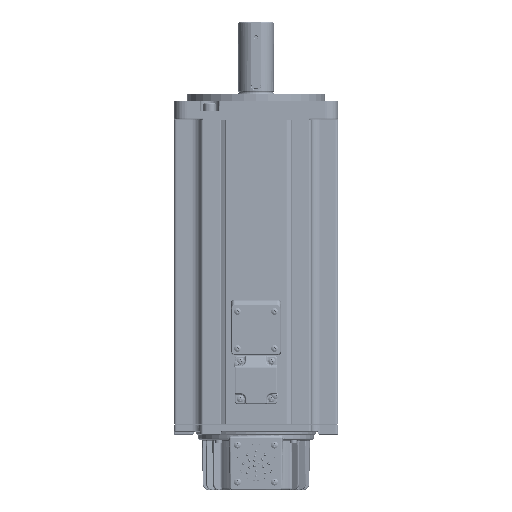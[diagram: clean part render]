
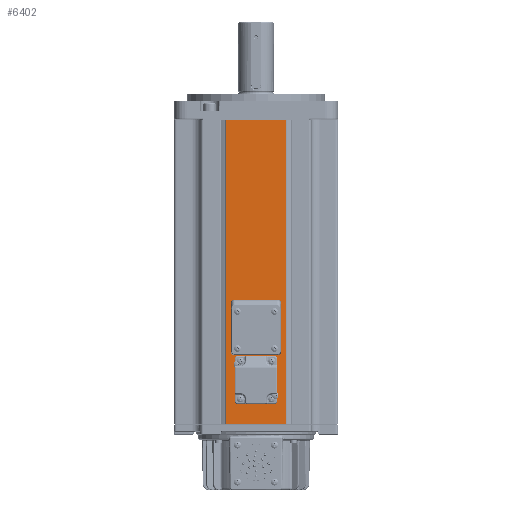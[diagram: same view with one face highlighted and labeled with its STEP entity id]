
A CAD part, front view. The second image highlights one B-rep face of the part: STEP entity #6402.
In plain terms, the highlighted planar face has unit normal (0, -1, 0).
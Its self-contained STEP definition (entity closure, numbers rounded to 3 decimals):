
#1527=CARTESIAN_POINT('',(-14.672,-65.,-31.078));
#1528=DIRECTION('',(0.,1.,0.));
#1529=DIRECTION('',(0.,0.,-1.));
#1530=AXIS2_PLACEMENT_3D('',#1527,#1528,#1529);
#1532=CARTESIAN_POINT('',(-14.672,-65.,-31.078));
#1533=DIRECTION('',(0.,1.,0.));
#1534=DIRECTION('',(0.,0.,1.));
#1535=AXIS2_PLACEMENT_3D('',#1532,#1533,#1534);
#1537=CARTESIAN_POINT('',(14.672,-65.,-31.078));
#1538=DIRECTION('',(0.,1.,0.));
#1539=DIRECTION('',(0.,0.,-1.));
#1540=AXIS2_PLACEMENT_3D('',#1537,#1538,#1539);
#1542=CARTESIAN_POINT('',(14.672,-65.,-31.078));
#1543=DIRECTION('',(0.,1.,0.));
#1544=DIRECTION('',(0.,0.,1.));
#1545=AXIS2_PLACEMENT_3D('',#1542,#1543,#1544);
#1547=CARTESIAN_POINT('',(0.,-65.,-29.75));
#1548=DIRECTION('',(0.,1.,0.));
#1549=DIRECTION('',(0.,0.,-1.));
#1550=AXIS2_PLACEMENT_3D('',#1547,#1548,#1549);
#1552=CARTESIAN_POINT('',(0.,-65.,-29.75));
#1553=DIRECTION('',(0.,1.,0.));
#1554=DIRECTION('',(0.,0.,1.));
#1555=AXIS2_PLACEMENT_3D('',#1552,#1553,#1554);
#1557=CARTESIAN_POINT('',(-14.672,-65.,-60.422));
#1558=DIRECTION('',(0.,1.,0.));
#1559=DIRECTION('',(0.,0.,-1.));
#1560=AXIS2_PLACEMENT_3D('',#1557,#1558,#1559);
#1562=CARTESIAN_POINT('',(-14.672,-65.,-60.422));
#1563=DIRECTION('',(0.,1.,0.));
#1564=DIRECTION('',(0.,0.,1.));
#1565=AXIS2_PLACEMENT_3D('',#1562,#1563,#1564);
#1567=CARTESIAN_POINT('',(14.672,-65.,-60.422));
#1568=DIRECTION('',(0.,1.,0.));
#1569=DIRECTION('',(0.,0.,-1.));
#1570=AXIS2_PLACEMENT_3D('',#1567,#1568,#1569);
#1572=CARTESIAN_POINT('',(14.672,-65.,-60.422));
#1573=DIRECTION('',(0.,1.,0.));
#1574=DIRECTION('',(0.,0.,1.));
#1575=AXIS2_PLACEMENT_3D('',#1572,#1573,#1574);
#1577=CARTESIAN_POINT('',(-12.5,-65.,-70.45));
#1578=DIRECTION('',(0.,1.,0.));
#1579=DIRECTION('',(0.,0.,-1.));
#1580=AXIS2_PLACEMENT_3D('',#1577,#1578,#1579);
#1582=CARTESIAN_POINT('',(-12.5,-65.,-70.45));
#1583=DIRECTION('',(0.,1.,0.));
#1584=DIRECTION('',(0.,0.,1.));
#1585=AXIS2_PLACEMENT_3D('',#1582,#1583,#1584);
#1587=CARTESIAN_POINT('',(12.5,-65.,-70.45));
#1588=DIRECTION('',(0.,1.,0.));
#1589=DIRECTION('',(0.,0.,-1.));
#1590=AXIS2_PLACEMENT_3D('',#1587,#1588,#1589);
#1592=CARTESIAN_POINT('',(12.5,-65.,-70.45));
#1593=DIRECTION('',(0.,1.,0.));
#1594=DIRECTION('',(0.,0.,1.));
#1595=AXIS2_PLACEMENT_3D('',#1592,#1593,#1594);
#1597=CARTESIAN_POINT('',(-12.5,-65.,-100.45));
#1598=DIRECTION('',(0.,1.,0.));
#1599=DIRECTION('',(0.,0.,-1.));
#1600=AXIS2_PLACEMENT_3D('',#1597,#1598,#1599);
#1602=CARTESIAN_POINT('',(-12.5,-65.,-100.45));
#1603=DIRECTION('',(0.,1.,0.));
#1604=DIRECTION('',(0.,0.,1.));
#1605=AXIS2_PLACEMENT_3D('',#1602,#1603,#1604);
#1607=CARTESIAN_POINT('',(12.5,-65.,-100.45));
#1608=DIRECTION('',(0.,1.,0.));
#1609=DIRECTION('',(0.,0.,-1.));
#1610=AXIS2_PLACEMENT_3D('',#1607,#1608,#1609);
#1612=CARTESIAN_POINT('',(12.5,-65.,-100.45));
#1613=DIRECTION('',(0.,1.,0.));
#1614=DIRECTION('',(0.,0.,1.));
#1615=AXIS2_PLACEMENT_3D('',#1612,#1613,#1614);
#1617=CARTESIAN_POINT('',(0.,-65.,-78.45));
#1618=DIRECTION('',(0.,1.,0.));
#1619=DIRECTION('',(1.,0.,0.));
#1620=AXIS2_PLACEMENT_3D('',#1617,#1618,#1619);
#1622=CARTESIAN_POINT('',(0.,-65.,-78.45));
#1623=DIRECTION('',(0.,1.,0.));
#1624=DIRECTION('',(-1.,0.,0.));
#1625=AXIS2_PLACEMENT_3D('',#1622,#1623,#1624);
#1627=CARTESIAN_POINT('',(0.,-65.,-45.75));
#1628=DIRECTION('',(0.,1.,0.));
#1629=DIRECTION('',(1.,0.,0.));
#1630=AXIS2_PLACEMENT_3D('',#1627,#1628,#1629);
#1632=CARTESIAN_POINT('',(0.,-65.,-45.75));
#1633=DIRECTION('',(0.,1.,0.));
#1634=DIRECTION('',(-1.,0.,0.));
#1635=AXIS2_PLACEMENT_3D('',#1632,#1633,#1634);
#1637=DIRECTION('',(1.,0.,0.));
#1638=VECTOR('',#1637,47.823);
#1639=CARTESIAN_POINT('',(-23.912,-65.,-120.75));
#1640=LINE('',#1639,#1638);
#1641=DIRECTION('',(0.,0.,-1.));
#1642=VECTOR('',#1641,241.5);
#1643=CARTESIAN_POINT('',(-23.912,-65.,120.75));
#1644=LINE('',#1643,#1642);
#1645=DIRECTION('',(-1.,0.,0.));
#1646=VECTOR('',#1645,47.823);
#1647=CARTESIAN_POINT('',(23.912,-65.,120.75));
#1648=LINE('',#1647,#1646);
#1649=DIRECTION('',(0.,0.,1.));
#1650=VECTOR('',#1649,241.5);
#1651=CARTESIAN_POINT('',(23.912,-65.,-120.75));
#1652=LINE('',#1651,#1650);
#4543=CARTESIAN_POINT('',(23.912,-65.,-120.75));
#4544=VERTEX_POINT('',#4543);
#4549=CARTESIAN_POINT('',(-23.912,-65.,-120.75));
#4550=VERTEX_POINT('',#4549);
#4923=CARTESIAN_POINT('',(23.912,-65.,120.75));
#4924=VERTEX_POINT('',#4923);
#4929=CARTESIAN_POINT('',(-23.912,-65.,120.75));
#4930=VERTEX_POINT('',#4929);
#5336=CARTESIAN_POINT('',(-7.,-65.,-78.45));
#5338=VERTEX_POINT('',#5336);
#5340=CARTESIAN_POINT('',(7.,-65.,-78.45));
#5342=VERTEX_POINT('',#5340);
#5344=CARTESIAN_POINT('',(-11.,-65.,-45.75));
#5346=VERTEX_POINT('',#5344);
#5347=CARTESIAN_POINT('',(11.,-65.,-45.75));
#5348=VERTEX_POINT('',#5347);
#5354=CARTESIAN_POINT('',(-14.672,-65.,-32.328));
#5356=VERTEX_POINT('',#5354);
#5358=CARTESIAN_POINT('',(-14.672,-65.,-29.828));
#5360=VERTEX_POINT('',#5358);
#5362=CARTESIAN_POINT('',(14.672,-65.,-32.328));
#5364=VERTEX_POINT('',#5362);
#5366=CARTESIAN_POINT('',(14.672,-65.,-29.828));
#5368=VERTEX_POINT('',#5366);
#5370=CARTESIAN_POINT('',(0.,-65.,-31.));
#5372=VERTEX_POINT('',#5370);
#5374=CARTESIAN_POINT('',(0.,-65.,-28.5));
#5376=VERTEX_POINT('',#5374);
#5378=CARTESIAN_POINT('',(-14.672,-65.,-61.672));
#5380=VERTEX_POINT('',#5378);
#5382=CARTESIAN_POINT('',(-14.672,-65.,-59.172));
#5384=VERTEX_POINT('',#5382);
#5386=CARTESIAN_POINT('',(14.672,-65.,-61.672));
#5388=VERTEX_POINT('',#5386);
#5390=CARTESIAN_POINT('',(14.672,-65.,-59.172));
#5392=VERTEX_POINT('',#5390);
#5394=CARTESIAN_POINT('',(-12.5,-65.,-71.7));
#5396=VERTEX_POINT('',#5394);
#5398=CARTESIAN_POINT('',(-12.5,-65.,-69.2));
#5400=VERTEX_POINT('',#5398);
#5402=CARTESIAN_POINT('',(12.5,-65.,-71.7));
#5404=VERTEX_POINT('',#5402);
#5406=CARTESIAN_POINT('',(12.5,-65.,-69.2));
#5408=VERTEX_POINT('',#5406);
#5410=CARTESIAN_POINT('',(-12.5,-65.,-101.7));
#5412=VERTEX_POINT('',#5410);
#5414=CARTESIAN_POINT('',(-12.5,-65.,-99.2));
#5416=VERTEX_POINT('',#5414);
#5418=CARTESIAN_POINT('',(12.5,-65.,-101.7));
#5420=VERTEX_POINT('',#5418);
#5422=CARTESIAN_POINT('',(12.5,-65.,-99.2));
#5424=VERTEX_POINT('',#5422);
#6323=CARTESIAN_POINT('',(-43.912,-65.,300.));
#6324=DIRECTION('',(0.,1.,0.));
#6325=DIRECTION('',(-1.,0.,0.));
#6326=AXIS2_PLACEMENT_3D('',#6323,#6324,#6325);
#6327=PLANE('',#6326);
#6329=ORIENTED_EDGE('',*,*,#6328,.F.);
#6331=ORIENTED_EDGE('',*,*,#6330,.F.);
#6333=ORIENTED_EDGE('',*,*,#6332,.F.);
#6335=ORIENTED_EDGE('',*,*,#6334,.F.);
#6336=EDGE_LOOP('',(#6329,#6331,#6333,#6335));
#6337=FACE_OUTER_BOUND('',#6336,.F.);
#6339=ORIENTED_EDGE('',*,*,#6338,.F.);
#6341=ORIENTED_EDGE('',*,*,#6340,.F.);
#6342=EDGE_LOOP('',(#6339,#6341));
#6343=FACE_BOUND('',#6342,.F.);
#6345=ORIENTED_EDGE('',*,*,#6344,.F.);
#6347=ORIENTED_EDGE('',*,*,#6346,.F.);
#6348=EDGE_LOOP('',(#6345,#6347));
#6349=FACE_BOUND('',#6348,.F.);
#6351=ORIENTED_EDGE('',*,*,#6350,.F.);
#6353=ORIENTED_EDGE('',*,*,#6352,.F.);
#6354=EDGE_LOOP('',(#6351,#6353));
#6355=FACE_BOUND('',#6354,.F.);
#6357=ORIENTED_EDGE('',*,*,#6356,.F.);
#6359=ORIENTED_EDGE('',*,*,#6358,.F.);
#6360=EDGE_LOOP('',(#6357,#6359));
#6361=FACE_BOUND('',#6360,.F.);
#6363=ORIENTED_EDGE('',*,*,#6362,.F.);
#6365=ORIENTED_EDGE('',*,*,#6364,.F.);
#6366=EDGE_LOOP('',(#6363,#6365));
#6367=FACE_BOUND('',#6366,.F.);
#6369=ORIENTED_EDGE('',*,*,#6368,.F.);
#6371=ORIENTED_EDGE('',*,*,#6370,.F.);
#6372=EDGE_LOOP('',(#6369,#6371));
#6373=FACE_BOUND('',#6372,.F.);
#6375=ORIENTED_EDGE('',*,*,#6374,.F.);
#6377=ORIENTED_EDGE('',*,*,#6376,.F.);
#6378=EDGE_LOOP('',(#6375,#6377));
#6379=FACE_BOUND('',#6378,.F.);
#6381=ORIENTED_EDGE('',*,*,#6380,.F.);
#6383=ORIENTED_EDGE('',*,*,#6382,.F.);
#6384=EDGE_LOOP('',(#6381,#6383));
#6385=FACE_BOUND('',#6384,.F.);
#6387=ORIENTED_EDGE('',*,*,#6386,.F.);
#6389=ORIENTED_EDGE('',*,*,#6388,.F.);
#6390=EDGE_LOOP('',(#6387,#6389));
#6391=FACE_BOUND('',#6390,.F.);
#6393=ORIENTED_EDGE('',*,*,#6392,.F.);
#6395=ORIENTED_EDGE('',*,*,#6394,.F.);
#6396=EDGE_LOOP('',(#6393,#6395));
#6397=FACE_BOUND('',#6396,.F.);
#6398=ORIENTED_EDGE('',*,*,#5968,.F.);
#6399=ORIENTED_EDGE('',*,*,#5953,.F.);
#6400=EDGE_LOOP('',(#6398,#6399));
#6401=FACE_BOUND('',#6400,.F.);
#6402=ADVANCED_FACE('',(#6337,#6343,#6349,#6355,#6361,#6367,#6373,#6379,#6385,
#6391,#6397,#6401),#6327,.F.);
#1531=CIRCLE('',#1530,1.25);
#1536=CIRCLE('',#1535,1.25);
#1541=CIRCLE('',#1540,1.25);
#1546=CIRCLE('',#1545,1.25);
#1551=CIRCLE('',#1550,1.25);
#1556=CIRCLE('',#1555,1.25);
#1561=CIRCLE('',#1560,1.25);
#1566=CIRCLE('',#1565,1.25);
#1571=CIRCLE('',#1570,1.25);
#1576=CIRCLE('',#1575,1.25);
#1581=CIRCLE('',#1580,1.25);
#1586=CIRCLE('',#1585,1.25);
#1591=CIRCLE('',#1590,1.25);
#1596=CIRCLE('',#1595,1.25);
#1601=CIRCLE('',#1600,1.25);
#1606=CIRCLE('',#1605,1.25);
#1611=CIRCLE('',#1610,1.25);
#1616=CIRCLE('',#1615,1.25);
#1621=CIRCLE('',#1620,7.);
#1626=CIRCLE('',#1625,7.);
#1631=CIRCLE('',#1630,11.);
#1636=CIRCLE('',#1635,11.);
#5953=EDGE_CURVE('',#5346,#5348,#1636,.T.);
#5968=EDGE_CURVE('',#5348,#5346,#1631,.T.);
#6328=EDGE_CURVE('',#4550,#4544,#1640,.T.);
#6330=EDGE_CURVE('',#4930,#4550,#1644,.T.);
#6332=EDGE_CURVE('',#4924,#4930,#1648,.T.);
#6334=EDGE_CURVE('',#4544,#4924,#1652,.T.);
#6338=EDGE_CURVE('',#5356,#5360,#1531,.T.);
#6340=EDGE_CURVE('',#5360,#5356,#1536,.T.);
#6344=EDGE_CURVE('',#5364,#5368,#1541,.T.);
#6346=EDGE_CURVE('',#5368,#5364,#1546,.T.);
#6350=EDGE_CURVE('',#5372,#5376,#1551,.T.);
#6352=EDGE_CURVE('',#5376,#5372,#1556,.T.);
#6356=EDGE_CURVE('',#5380,#5384,#1561,.T.);
#6358=EDGE_CURVE('',#5384,#5380,#1566,.T.);
#6362=EDGE_CURVE('',#5388,#5392,#1571,.T.);
#6364=EDGE_CURVE('',#5392,#5388,#1576,.T.);
#6368=EDGE_CURVE('',#5396,#5400,#1581,.T.);
#6370=EDGE_CURVE('',#5400,#5396,#1586,.T.);
#6374=EDGE_CURVE('',#5404,#5408,#1591,.T.);
#6376=EDGE_CURVE('',#5408,#5404,#1596,.T.);
#6380=EDGE_CURVE('',#5412,#5416,#1601,.T.);
#6382=EDGE_CURVE('',#5416,#5412,#1606,.T.);
#6386=EDGE_CURVE('',#5420,#5424,#1611,.T.);
#6388=EDGE_CURVE('',#5424,#5420,#1616,.T.);
#6392=EDGE_CURVE('',#5342,#5338,#1621,.T.);
#6394=EDGE_CURVE('',#5338,#5342,#1626,.T.);
